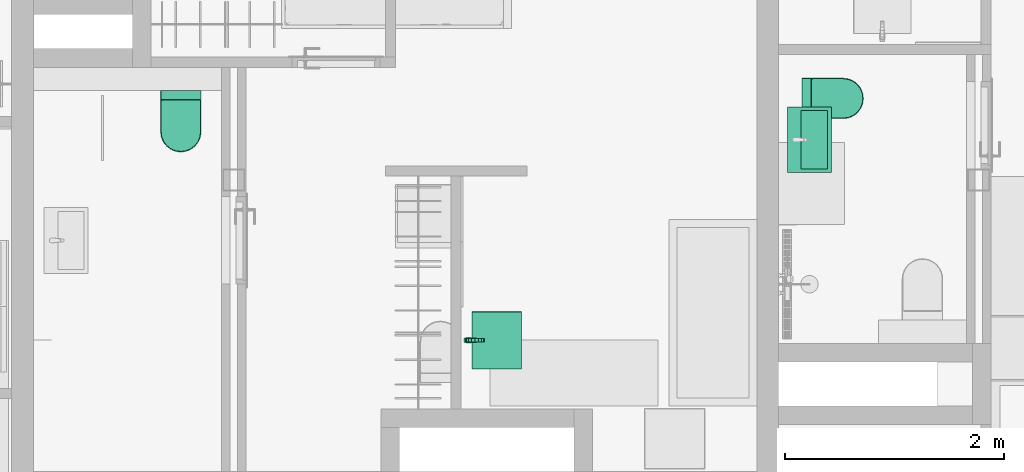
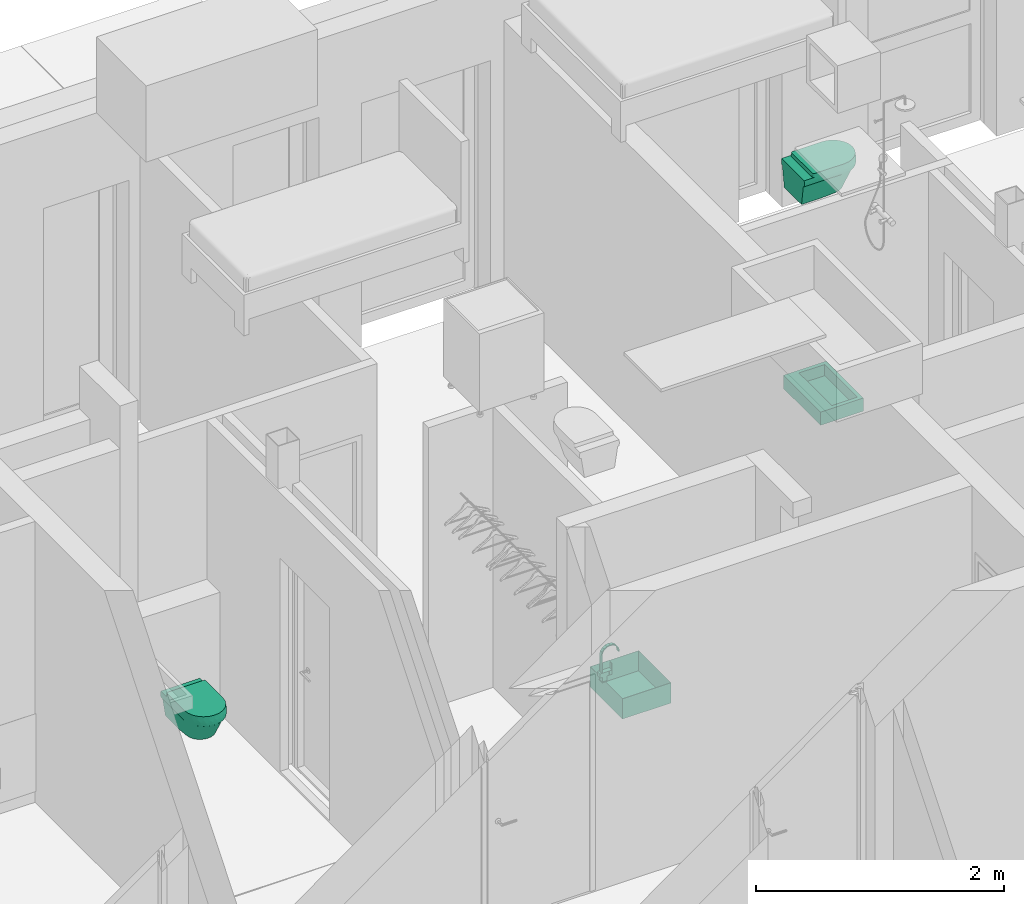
# One storey, part 20 of 68: 5 flow terminals.
"""IFC2X3 building model written with IfcOpenShell, lengths in millimetres."""

from ifc_helpers import new_model, entity, si_unit, converted_unit, direction, frame, origin, place, context, subcontext, project, spatial, faceted_brep, source, transform, mapped, material, type_object, type_shapes, element, save


model = new_model("IFC2X3")

# Units and contexts
model_context = context("Model", 3, precision=0.01, world=origin(), true_north=direction((6.123233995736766e-17, 1.0)))
plan_context = context("Plan", 3, precision=0.01, world=origin(), true_north=direction((6.123233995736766e-17, 1.0)))
body_context = subcontext(model_context, "Body", "Model", "MODEL_VIEW")
ifc_project = project(units=[si_unit("LENGTHUNIT", "METRE", prefix="MILLI"), converted_unit("PLANEANGLEUNIT", "DEGREE", entity("IfcPlaneAngleMeasure", 0.017453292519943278), si_unit("PLANEANGLEUNIT", "RADIAN"), dimensions=[0, 0, 0, 0, 0, 0, 0]), si_unit("AREAUNIT", "SQUARE_METRE")], contexts=[model_context, plan_context])

# Site, building, storey, space
site_placement = place(None, origin())
site = spatial("IfcSite", under=ifc_project, at=site_placement, Name="Default", CompositionType="ELEMENT")
building_placement = place(site_placement, origin())
building = spatial("IfcBuilding", under=site, at=building_placement, CompositionType="ELEMENT")
storey_placement = place(building_placement, frame((0.0, 0.0, 6295.0)))
storey = spatial("IfcBuildingStorey", under=building, at=storey_placement, Name="3K", CompositionType="ELEMENT", Elevation=6294.999999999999)
space_1_placement = place(storey_placement, origin())
space_1 = spatial("IfcSpace", under=storey, at=space_1_placement, Name="3-6.4", CompositionType="ELEMENT", InteriorOrExteriorSpace="INTERNAL")

# Flow terminal
ifc_material = material(Name="<Unnamed>")
distribution_element_type_1 = type_object("IfcDistributionElementType", Name="HR_Plumbing-fixtures_Toilet_Generic_v3:Default", material=ifc_material)
shared_shape_1 = source(origin(), body_context, "Body", "Brep", [
    faceted_brep([(185.0, 375.0, -3940.0), (185.0, 100.0, -3940.0), (184.31851652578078, 94.82361909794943, -3940.0), (182.32050807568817, 90.0, -3940.0), (179.14213562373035, 85.85786437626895, -3940.0), (175.0, 82.67949192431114, -3940.0), (170.17638090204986, 80.68148347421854, -3940.0), (165.0, 80.0, -3940.0), (-165.0, 80.0, -3940.0), (-170.17638090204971, 80.68148347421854, -3940.0), (-175.0, 82.67949192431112, -3940.0), (-179.14213562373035, 85.85786437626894, -3940.0), (-182.32050807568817, 90.0, -3940.0), (-184.31851652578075, 94.82361909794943, -3940.0), (-185.0, 100.0, -3940.0), (-185.0, 375.0, -3940.0), (-178.6962778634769, 422.8815233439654, -3940.0), (-160.21469970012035, 467.49999999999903, -3940.0), (-130.81475451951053, 505.81475451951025, -3940.0), (-92.4999999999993, 535.21469970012, -3940.0), (-47.8815233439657, 553.6962778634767, -3940.0), (0.0, 560.0, -3940.0), (47.88152334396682, 553.6962778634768, -3940.0), (92.50000000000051, 535.2146997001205, -3940.0), (130.81475451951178, 505.8147545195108, -3940.0), (160.2146997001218, 467.4999999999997, -3940.0), (178.69627786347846, 422.8815233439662, -3940.0), (165.0, 85.0, -3905.0), (168.88228567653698, 85.51111260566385, -3905.0), (172.4999999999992, 87.00961894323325, -3905.0), (175.60660171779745, 89.39339828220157, -3905.0), (177.99038105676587, 92.49999999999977, -3905.0), (179.48888739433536, 96.11771432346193, -3905.0), (180.0, 100.0, -3905.0), (180.0, 375.0, -3905.0), (173.86664873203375, 421.5874281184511, -3905.0), (155.88457268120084, 465.0, -3905.0), (127.27922061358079, 502.27922061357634, -3905.0), (90.0, 530.884572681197, -3905.0), (46.58742811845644, 548.8666487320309, -3905.0), (0.0, 555.0, -3905.0), (-46.58742811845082, 548.8666487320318, -3905.0), (-90.0, 530.8845726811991, -3905.0), (-127.27922061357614, 502.2792206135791, -3905.0), (-155.88457268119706, 465.0, -3905.0), (-173.8666487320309, 421.58742811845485, -3905.0), (-180.0, 375.0, -3905.0), (-180.0, 100.0, -3905.0), (-179.4888873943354, 96.11771432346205, -3905.0), (-177.99038105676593, 92.49999999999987, -3905.0), (-175.6066017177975, 89.39339828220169, -3905.0), (-172.49999999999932, 87.00961894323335, -3905.0), (-168.88228567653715, 85.51111260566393, -3905.0), (-165.0, 85.0, -3905.0)], [[[0, 1, 2, 3, 4, 5, 6, 7, 8, 9, 10, 11, 12, 13, 14, 15, 16, 17, 18, 19, 20, 21, 22, 23, 24, 25, 26]], [[27, 28, 29, 30, 31, 32, 33, 34, 35, 36, 37, 38, 39, 40, 41, 42, 43, 44, 45, 46, 47, 48, 49, 50, 51, 52, 53]], [[13, 48, 47, 14]], [[49, 12, 11, 50]], [[48, 13, 12, 49]], [[52, 51, 10, 9]], [[53, 52, 9, 8]], [[10, 51, 50, 11]], [[7, 27, 53, 8]], [[6, 28, 27, 7]], [[29, 5, 4, 30]], [[28, 6, 5, 29]], [[32, 31, 3, 2]], [[33, 32, 2, 1]], [[3, 31, 30, 4]], [[0, 34, 33, 1]], [[34, 0, 26, 35]], [[35, 26, 25, 36]], [[38, 37, 24, 23]], [[24, 37, 36, 25]], [[39, 38, 23, 22]], [[39, 22, 21, 40]], [[20, 41, 40, 21]], [[45, 44, 17, 16]], [[43, 18, 17, 44]], [[45, 16, 15, 46]], [[19, 42, 41, 20]], [[19, 18, 43, 42]], [[47, 46, 15, 14]]]),
    faceted_brep([(158.04963619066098, 466.24999999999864, -4000.0), (176.28146329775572, 422.2344757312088, -4000.0), (182.5000000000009, 375.0, -4000.0), (182.5000000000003, 0.0, -4000.0), (-182.49999999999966, 0.0, -4000.0), (-182.49999999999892, 375.0, -4000.0), (-176.2814632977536, 422.23447573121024, -4000.0), (-158.04963619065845, 466.25, -4000.0), (-129.04698756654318, 504.0469875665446, -4000.0), (-91.2499999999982, 533.0496361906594, -4000.0), (-47.23447573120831, 551.281463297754, -4000.0), (0.0, 557.4999999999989, -4000.0), (47.23447573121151, 551.2814632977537, -4000.0), (91.25000000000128, 533.0496361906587, -4000.0), (129.04698756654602, 504.0469875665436, -4000.0), (-176.28146329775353, 422.23447573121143, -3940.0), (-182.49999999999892, 375.0, -3940.0), (-182.49999999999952, 0.0, -3940.0), (182.50000000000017, 0.0, -3940.0), (182.50000000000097, 375.0, -3940.0), (176.2814632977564, 422.23447573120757, -3940.0), (158.04963619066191, 466.24999999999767, -3940.0), (129.04698756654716, 504.04698756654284, -3940.0), (91.25000000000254, 533.0496361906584, -3940.0), (47.23447573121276, 551.2814632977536, -3940.0), (0.0, 557.4999999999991, -3940.0), (-47.23447573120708, 551.2814632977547, -3940.0), (-91.24999999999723, 533.0496361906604, -3940.0), (-129.04698756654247, 504.0469875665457, -3940.0), (-158.0496361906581, 466.25000000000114, -3940.0), (184.3739186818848, 0.0, -3985.051993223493), (185.0, 0.0, -3970.0), (184.37391868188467, 0.0, -3954.9480067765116), (-184.37391868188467, 0.0, -3954.9480067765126), (-185.0, 0.0, -3970.0), (-184.37391868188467, 0.0, -3985.051993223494), (185.0, 375.0, -3970.0), (184.37391868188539, 375.0, -3954.9480067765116), (184.37391868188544, 375.0, -3985.051993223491), (179.22193525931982, 420.2391964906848, -3962.467496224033), (146.12425609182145, 487.1250848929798, -3987.162723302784), (112.36452390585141, 521.4362980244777, -3982.347722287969), (-24.092382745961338, 557.9998161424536, -3957.652277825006), (-70.79643453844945, 545.9177137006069, -3969.999999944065), (165.88140661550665, 456.6493815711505, -3963.605381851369), (170.61476036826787, 445.67094705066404, -3980.89777177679), (146.7703673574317, 487.6208651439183, -3969.999999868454), (112.4934291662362, 521.6042920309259, -3961.29138681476), (70.79643457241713, 545.9177136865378, -3969.9999999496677), (-170.6147602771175, 445.67094700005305, -3980.8977734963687), (-146.12425609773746, 487.12508488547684, -3987.1627233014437), (70.4847752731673, 545.1653000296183, -3987.16272333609), (24.092382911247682, 557.9998161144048, -3982.3477222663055), (-146.77036734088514, 487.62086516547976, -3969.999999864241), (-165.88140640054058, 456.6493822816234, -3963.605385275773), (24.120021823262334, 558.2097557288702, -3961.2913867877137), (-24.120022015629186, 558.20975569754, -3978.7086133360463), (180.8695297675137, 411.23491834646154, -3983.9362692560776), (-112.36452329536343, 521.4362985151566, -3957.652277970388), (-112.4934298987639, 521.6042914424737, -3978.708613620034), (-70.48477528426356, 545.1653000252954, -3987.1627233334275), (-184.3739188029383, 375.0, -3954.948008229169), (-179.2219343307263, 420.239200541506, -3962.4674984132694), (-185.0, 375.0, -3970.0000029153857), (-184.3739185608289, 375.0, -3985.0519946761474), (-181.40133300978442, 410.0856400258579, -3979.2616608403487)], [[[0, 1, 2, 3, 4, 5, 6, 7, 8, 9, 10, 11, 12, 13, 14]], [[15, 16, 17, 18, 19, 20, 21, 22, 23, 24, 25, 26, 27, 28, 29]], [[4, 3, 30, 31, 32, 18, 17, 33, 34, 35]], [[32, 31, 36, 37]], [[32, 37, 19, 18]], [[30, 3, 2, 38]], [[30, 38, 36, 31]], [[37, 39, 20]], [[40, 14, 41]], [[20, 19, 37]], [[26, 42, 43]], [[44, 45, 46]], [[47, 41, 48]], [[48, 24, 23]], [[7, 49, 50]], [[47, 22, 46]], [[51, 12, 52]], [[21, 46, 22]], [[53, 49, 54]], [[55, 52, 56]], [[48, 52, 55]], [[36, 57, 39]], [[28, 58, 53]], [[11, 10, 56]], [[57, 38, 2]], [[37, 36, 39]], [[59, 58, 43]], [[7, 6, 49]], [[14, 13, 41]], [[12, 51, 13]], [[45, 57, 1]], [[14, 40, 0]], [[45, 1, 0]], [[47, 46, 41]], [[39, 57, 45]], [[24, 48, 55]], [[56, 42, 55]], [[26, 43, 27]], [[39, 45, 44]], [[58, 28, 27]], [[9, 59, 60]], [[27, 43, 58]], [[28, 53, 29]], [[61, 16, 15]], [[11, 56, 52]], [[61, 62, 63]], [[47, 48, 23]], [[41, 51, 48]], [[15, 54, 62]], [[42, 25, 55]], [[62, 61, 15]], [[64, 63, 65]], [[56, 60, 43]], [[55, 25, 24]], [[50, 53, 59]], [[60, 10, 9]], [[47, 23, 22]], [[62, 49, 65]], [[7, 50, 8]], [[49, 62, 54]], [[64, 6, 5]], [[42, 26, 25]], [[58, 59, 53]], [[49, 6, 65]], [[44, 21, 20]], [[11, 52, 12]], [[42, 56, 43]], [[46, 45, 40]], [[59, 9, 8]], [[39, 44, 20]], [[44, 46, 21]], [[54, 29, 53]], [[29, 54, 15]], [[13, 51, 41]], [[48, 51, 52]], [[0, 40, 45]], [[46, 40, 41]], [[10, 60, 56]], [[43, 60, 59]], [[8, 50, 59]], [[53, 50, 49]], [[1, 57, 2]], [[36, 38, 57]], [[62, 65, 63]], [[64, 65, 6]], [[16, 61, 33]], [[16, 33, 17]], [[33, 61, 34]], [[61, 63, 34]], [[64, 5, 4]], [[64, 35, 63]], [[35, 64, 4]], [[63, 35, 34]]]),
    faceted_brep([(85.0, 522.224318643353, -4000.0), (43.99923766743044, 539.2073904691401, -4000.0), (0.0, 545.0, -4000.0), (-43.99923766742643, 539.2073904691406, -4000.0), (-85.0, 522.2243186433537, -4000.0), (-120.20815280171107, 495.2081528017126, -4000.0), (-147.22431864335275, 460.0, -4000.0), (-164.20739046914, 418.9992376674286, -4000.0), (-170.0, 375.0, -4000.0), (-170.0, 0.0, -4000.0), (170.0, 0.0, -4000.0), (170.0, 375.0, -4000.0), (164.2073904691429, 418.99923766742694, -4000.0), (147.224318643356, 460.0, -4000.0), (120.20815280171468, 495.20815280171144, -4000.0), (140.0, 0.0, -4200.0), (-140.0, 0.0, -4200.0), (-140.0, 150.0, -4200.0), (-138.62980634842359, 195.25787346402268, -4200.0), (-137.25961308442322, 240.51573412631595, -4200.0), (-133.15405183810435, 285.6078202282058, -4200.0), (-129.04849039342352, 330.69990850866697, -4200.0), (-121.54313718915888, 361.12229181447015, -4200.0), (-106.97640292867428, 388.86507440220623, -4200.0), (-86.1945818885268, 412.3164634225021, -4200.0), (-60.40505081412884, 430.11398627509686, -4200.0), (-31.106123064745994, 441.2236471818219, -4200.0), (0.0, 445.0, -4200.0), (31.106123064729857, 441.2236471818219, -4200.0), (60.40505081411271, 430.1139862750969, -4200.0), (86.19458188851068, 412.3164634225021, -4200.0), (106.97640292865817, 388.86507440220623, -4200.0), (121.54313718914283, 361.12229181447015, -4200.0), (129.04849039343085, 330.69990850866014, -4200.0), (133.15405231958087, 285.60781494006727, -4200.0), (137.25961308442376, 240.51573412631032, -4200.0), (138.629806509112, 195.25786815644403, -4200.0), (140.0, 150.0, -4200.0), (150.60660238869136, 229.54951791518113, -4129.289317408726), (160.30330119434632, 302.2747589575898, -4064.6446587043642), (155.52145288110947, 359.3375502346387, -4070.710688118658), (143.52703751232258, 346.36235827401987, -4129.289311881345), (155.38792293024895, 359.1931016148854, -4071.362825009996), (136.07910358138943, 407.7451780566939, -4100.000018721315), (144.4628484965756, 378.65444268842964, -4105.413468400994), (88.6637225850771, 465.93257853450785, -4100.000001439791), (116.08235687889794, 439.8543237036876, -4100.000003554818), (-146.76963007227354, 381.58655237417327, -4094.5865394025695), (-136.0791098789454, 407.7451788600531, -4100.000000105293), (-143.66056550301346, 346.5068047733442, -4128.637184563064), (-156.76351819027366, 360.6811785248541, -4064.644658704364), (55.573859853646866, 484.30716171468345, -4100.000000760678), (18.928354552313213, 493.79904274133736, -4099.999999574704), (-55.573860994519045, 484.3071615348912, -4100.00000022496), (-18.928355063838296, 493.79904230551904, -4100.000000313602), (-143.52703638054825, 346.36235704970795, -4129.289317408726), (-88.66372427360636, 465.9325779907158, -4100.000000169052), (-116.08235986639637, 439.8543221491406, -4100.000000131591), (-159.3933967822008, 295.45047586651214, -4070.7106881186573), (-150.6066032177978, 229.54952413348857, -4129.2893118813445)], [[[0, 1, 2, 3, 4, 5, 6, 7, 8, 9, 10, 11, 12, 13, 14]], [[15, 16, 17, 18, 19, 20, 21, 22, 23, 24, 25, 26, 27, 28, 29, 30, 31, 32, 33, 34, 35, 36, 37]], [[10, 15, 37, 38, 39, 11]], [[36, 35, 39, 38, 37]], [[39, 40, 11]], [[35, 40, 39]], [[34, 33, 41, 42, 40, 35]], [[13, 12, 43]], [[32, 44, 33]], [[32, 31, 43]], [[44, 12, 42]], [[45, 30, 29]], [[45, 46, 30]], [[22, 47, 48]], [[30, 46, 31]], [[47, 49, 50, 8]], [[28, 51, 29]], [[46, 43, 31]], [[43, 44, 32]], [[12, 11, 40, 42]], [[51, 45, 29]], [[14, 45, 0]], [[13, 43, 46]], [[28, 27, 52]], [[14, 46, 45]], [[45, 51, 0]], [[0, 51, 1]], [[1, 51, 52]], [[52, 51, 28]], [[52, 2, 1]], [[13, 46, 14]], [[53, 26, 25]], [[2, 54, 3]], [[22, 21, 55, 49]], [[24, 56, 25]], [[48, 23, 22]], [[5, 57, 6]], [[48, 57, 23]], [[24, 23, 57]], [[47, 7, 48]], [[8, 7, 47]], [[26, 54, 27]], [[3, 54, 53]], [[56, 53, 25]], [[2, 52, 54]], [[57, 56, 24]], [[4, 53, 56]], [[22, 49, 47]], [[5, 56, 57]], [[57, 48, 6]], [[4, 56, 5]], [[53, 54, 26]], [[3, 53, 4]], [[6, 48, 7]], [[12, 44, 43]], [[44, 42, 41, 33]], [[54, 52, 27]], [[20, 19, 50, 49, 55, 21]], [[50, 58, 8]], [[19, 58, 50]], [[18, 17, 59, 58, 19]], [[9, 8, 58, 59, 17, 16]], [[9, 16, 15, 10]]]),
])
type_shapes(distribution_element_type_1, [shared_shape_1])
flow_terminal_1_placement = place(space_1_placement, frame((4692.0, 11517.0, 4340.0), z_axis=(0.0, 0.0, 1.0), x_axis=(-1.0, 0.0, 0.0)))
element("IfcFlowTerminal", 1, at=flow_terminal_1_placement, inside=space_1, type_object=distribution_element_type_1, material=ifc_material, Name="HR_Plumbing-fixtures_Toilet_Generic_v3:Default", ObjectType="HR_Plumbing-fixtures_Toilet_Generic_v3:Default", context=body_context, shape_type="MappedRepresentation", body=[
    mapped(shared_shape_1, transform((0.0, 0.0, 0.0), scale=1.0)),
])

# Space
space_2_placement = place(storey_placement, origin())
space_2 = spatial("IfcSpace", under=storey, at=space_2_placement, Name="3-7.4", CompositionType="ELEMENT", InteriorOrExteriorSpace="INTERNAL")

# Flow terminal
flow_terminal_2_placement = place(space_2_placement, frame((10363.0, 11446.0, 7475.000076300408), z_axis=(0.0, 0.0, 1.0), x_axis=(0.0, -1.0, 0.0)))
element("IfcFlowTerminal", 2, at=flow_terminal_2_placement, inside=space_2, type_object=distribution_element_type_1, material=ifc_material, Name="HR_Plumbing-fixtures_Toilet_Generic_v3:Default", ObjectType="HR_Plumbing-fixtures_Toilet_Generic_v3:Default", context=body_context, shape_type="MappedRepresentation", body=[
    mapped(shared_shape_1, transform((0.0, 0.0, 0.0), scale=1.0)),
])

# Space
space_3_placement = place(storey_placement, origin())
space_3 = spatial("IfcSpace", under=storey, at=space_3_placement, Name="3-6.2", CompositionType="ELEMENT", InteriorOrExteriorSpace="INTERNAL")

# Flow terminals
distribution_element_type_2 = type_object("IfcDistributionElementType", Name="HR_Plumbing-fixtures_Sink_Generic_Kitchen_v1:Default", material=ifc_material)
shared_shape_2 = source(origin(), body_context, "Body", "Brep", [
    faceted_brep([(260.0, -50.0, -3825.0), (260.0, -500.0, -3825.0), (-260.0, -500.0, -3825.0), (-260.0, -50.0, -3825.0), (262.0, -48.0, -3825.0), (-262.0, -48.0, -3825.0), (-262.0, -502.0, -3825.0), (262.0, -502.0, -3825.0), (262.0, -48.0, -4025.0), (262.0, -502.0, -4025.0), (-262.0, -502.0, -4025.0), (-262.0, -48.0, -4025.0), (260.0, -50.0, -4023.0), (260.0, -500.0, -4023.0), (-260.0, -500.0, -4023.0), (-260.0, -50.0, -4023.0)], [[[0, 1, 2, 3], [4, 5, 6, 7]], [[8, 9, 10, 11]], [[1, 0, 12, 13]], [[2, 1, 13, 14]], [[3, 2, 14, 15]], [[0, 3, 15, 12]], [[5, 4, 8, 11]], [[6, 5, 11, 10]], [[7, 6, 10, 9]], [[4, 7, 9, 8]], [[13, 12, 15, 14]]], outer=[[False, True], [True], [True], [True], [True], [True], [True], [True], [True], [True], [True]]),
])
type_shapes(distribution_element_type_2, [shared_shape_2])
flow_terminal_3_placement = place(space_3_placement, frame((7850.0, 9238.0, 4695.0), z_axis=(0.0, 0.0, 1.0), x_axis=(0.0, -1.0, 0.0)))
element("IfcFlowTerminal", 3, at=flow_terminal_3_placement, inside=space_3, type_object=distribution_element_type_2, material=ifc_material, Name="HR_Plumbing-fixtures_Sink_Generic_Kitchen_v1:Default", ObjectType="HR_Plumbing-fixtures_Sink_Generic_Kitchen_v1:Default", context=body_context, shape_type="MappedRepresentation", body=[
    mapped(shared_shape_2, transform((0.0, 0.0, 0.0), scale=1.0)),
])
distribution_element_type_3 = type_object("IfcDistributionElementType", Name="HR_Plumbing-fixtures_Faucet_Generic_v1:Default", material=ifc_material)
shared_shape_3 = source(origin(), body_context, "Body", "Brep", [
    faceted_brep([(-21.0, 45.0, 93.0), (21.0, 45.0, 93.0), (21.0, 71.0, 93.0), (11.500000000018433, 71.0, 93.0), (11.50000000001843, 68.0, 93.0), (-11.49999999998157, 68.0, 93.0), (-11.499999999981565, 71.0, 93.0), (-21.0, 71.0, 93.0), (-21.0, 45.0, 52.0), (-21.0, 71.0, 52.0), (-11.499999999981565, 71.0, 52.0), (-11.49999999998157, 68.0, 52.0), (11.50000000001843, 68.0, 52.0), (11.500000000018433, 71.0, 52.0), (21.0, 71.0, 52.0), (21.0, 45.0, 52.0), (-11.499999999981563, 74.0, 155.0), (-11.499999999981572, 68.0, 155.0), (11.500000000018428, 68.0, 155.0), (11.500000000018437, 74.0, 155.0), (-11.499999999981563, 74.0, 47.0), (11.500000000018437, 74.0, 47.0), (11.500000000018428, 68.0, 47.0), (-11.499999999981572, 68.0, 47.0)], [[[0, 1, 2, 3, 4, 5, 6, 7]], [[8, 9, 10, 11, 12, 13, 14, 15]], [[1, 0, 8, 15]], [[2, 1, 15, 14]], [[2, 14, 13, 3]], [[0, 7, 9, 8]], [[16, 17, 18, 19]], [[20, 21, 22, 23]], [[17, 16, 20, 23, 11, 10, 6, 5]], [[18, 17, 5, 4]], [[19, 18, 4, 3, 13, 12, 22, 21]], [[16, 19, 21, 20]], [[23, 22, 12, 11]], [[9, 7, 6, 10]]]),
    faceted_brep([(15.0, -28.2999999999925, 93.0), (-15.0, -28.299999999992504, 93.0), (-15.0, -18.299999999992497, 93.0), (15.0, -18.299999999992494, 93.0), (15.0, -28.299999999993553, 262.91444034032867), (-15.0, -28.29999999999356, 262.9144403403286), (-15.0, -18.29999999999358, 262.49427421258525), (15.0, -18.299999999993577, 262.49427421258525), (15.0, -24.100059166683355, 278.21407775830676), (15.0, -19.900118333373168, 293.51371517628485), (-15.0, -19.900118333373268, 293.5137151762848), (-15.0, -24.100059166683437, 278.2140777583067), (-15.0, -0.9291565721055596, 318.9494428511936), (-15.0, -10.414637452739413, 306.2315790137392), (15.0, -10.414637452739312, 306.23157901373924), (15.0, -0.9291565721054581, 318.9494428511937), (15.0, 142.33160759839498, 262.51576689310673), (-15.0, 142.33160759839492, 262.51576689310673), (-15.0, 138.20320612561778, 277.83486312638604), (-15.0, 134.07480465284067, 293.15395935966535), (15.0, 134.07480465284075, 293.15395935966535), (15.0, 138.20320612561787, 277.83486312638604), (-15.0, 26.005040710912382, 335.7250992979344), (-15.0, 12.537942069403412, 327.337271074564), (15.0, 12.537942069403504, 327.337271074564), (15.0, 26.005040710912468, 335.7250992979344), (-15.0, 57.19996222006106, 341.5346177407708), (-15.0, 41.60250146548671, 338.6298585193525), (15.0, 41.60250146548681, 338.62985851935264), (15.0, 57.19996222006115, 341.5346177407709), (-15.0, 88.36739590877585, 335.5793923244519), (-15.0, 72.78367906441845, 338.55700503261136), (15.0, 72.78367906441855, 338.55700503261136), (15.0, 88.36739590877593, 335.5793923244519), (-15.0, 124.64885649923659, 305.9160089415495), (-15.0, 115.22290834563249, 318.67805852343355), (15.0, 115.22290834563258, 318.67805852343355), (15.0, 124.64885649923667, 305.9160089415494), (-15.0, 101.79515212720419, 327.1287254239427), (15.0, 101.79515212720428, 327.1287254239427), (-15.0, 142.3316075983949, 249.0), (-15.0, 132.33160759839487, 249.0), (-15.0, 132.3316075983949, 262.11973222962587), (-15.0, 128.64003790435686, 275.58767371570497), (-15.0, 124.94846821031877, 289.05561520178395), (-15.0, 116.61798076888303, 300.2634746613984), (-15.0, 108.28749332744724, 311.4713341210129), (-15.0, 96.45555148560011, 318.88876541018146), (-15.0, 84.623609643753, 326.30619669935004), (-15.0, 70.90577314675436, 328.9204071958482), (-15.0, 57.187936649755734, 331.53461769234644), (-15.0, 43.457269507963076, 328.98865726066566), (-15.0, 29.726602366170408, 326.4426968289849), (-15.0, 17.85792051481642, 319.08419658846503), (-15.0, 5.989238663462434, 311.72569634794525), (-15.0, -2.3968815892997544, 300.55940234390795), (-15.0, -10.783001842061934, 289.3931083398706), (-15.0, -14.541500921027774, 275.9436912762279), (15.0, -10.783001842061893, 289.3931083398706), (15.0, -14.541500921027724, 275.9436912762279), (15.0, 5.989238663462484, 311.7256963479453), (15.0, -2.396881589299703, 300.55940234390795), (15.0, 116.61798076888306, 300.2634746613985), (15.0, 108.28749332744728, 311.47133412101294), (15.0, 124.94846821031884, 289.05561520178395), (15.0, 29.726602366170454, 326.4426968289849), (15.0, 17.857920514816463, 319.08419658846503), (15.0, 57.187936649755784, 331.53461769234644), (15.0, 43.45726950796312, 328.98865726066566), (15.0, 84.62360964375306, 326.30619669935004), (15.0, 70.90577314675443, 328.9204071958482), (15.0, 127.94606568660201, 278.11949025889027), (15.0, 132.33160759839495, 262.11973222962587), (15.0, 96.45555148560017, 318.88876541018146), (15.0, 132.33160759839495, 249.0), (15.0, 142.33160759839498, 249.0)], [[[0, 1, 2, 3]], [[1, 0, 4, 5]], [[3, 2, 6, 7]], [[4, 8, 9, 10, 11, 5]], [[12, 13, 10, 9, 14, 15]], [[16, 17, 18, 19, 20, 21]], [[22, 23, 12, 15, 24, 25]], [[26, 27, 22, 25, 28, 29]], [[30, 31, 26, 29, 32, 33]], [[34, 35, 36, 37, 20, 19]], [[35, 38, 30, 33, 39, 36]], [[17, 40, 41, 42, 43, 44, 45, 46, 47, 48, 49, 50, 51, 52, 53, 54, 55, 56, 57, 6, 2, 1, 5, 11, 10, 13, 12, 23, 22, 27, 26, 31, 30, 38, 35, 34, 19, 18]], [[6, 57, 56, 58, 59, 7]], [[60, 61, 58, 56, 55, 54]], [[62, 63, 46, 45, 44, 64]], [[65, 66, 60, 54, 53, 52]], [[65, 52, 51, 50, 67, 68]], [[69, 70, 67, 50, 49, 48]], [[71, 64, 44, 43, 42, 72]], [[47, 46, 63, 73, 69, 48]], [[72, 74, 75, 16, 21, 20, 37, 36, 39, 33, 32, 29, 28, 25, 24, 15, 14, 9, 8, 4, 0, 3, 7, 59, 58, 61, 60, 66, 65, 68, 67, 70, 69, 73, 63, 62, 64, 71]], [[41, 40, 75, 74]], [[17, 16, 75, 40]], [[72, 42, 41, 74]]]),
    faceted_brep([(-21.0, -43.0, 93.0), (21.0, -43.0, 93.0), (21.0, 43.0, 93.0), (-21.0, 43.0, 93.0), (-21.0, -43.0, 52.0), (-21.0, 43.0, 52.0), (21.0, 43.0, 52.0), (21.0, -43.0, 52.0)], [[[0, 1, 2, 3]], [[4, 5, 6, 7]], [[1, 0, 4, 7]], [[2, 1, 7, 6]], [[3, 2, 6, 5]], [[0, 3, 5, 4]]]),
    faceted_brep([(21.0, -21.0, 52.0), (21.0, 21.0, 52.0), (-21.0, 21.0, 52.0), (-21.0, -21.0, 52.0), (21.0, -21.0, 7.0), (-21.0, -21.0, 7.0), (-21.0, 21.0, 7.0), (21.0, 21.0, 7.0)], [[[0, 1, 2, 3]], [[4, 5, 6, 7]], [[1, 0, 4, 7]], [[2, 1, 7, 6]], [[3, 2, 6, 5]], [[0, 3, 5, 4]]]),
    faceted_brep([(-25.0, 25.0, 7.0), (-25.0, -25.0, 7.0), (25.0, -25.0, 7.0), (25.0, 25.0, 7.0), (-25.0, 25.0, 0.0), (25.0, 25.0, 0.0), (25.0, -25.0, 0.0), (-25.0, -25.0, 0.0)], [[[0, 1, 2, 3]], [[4, 5, 6, 7]], [[1, 0, 4, 7]], [[2, 1, 7, 6]], [[3, 2, 6, 5]], [[0, 3, 5, 4]]]),
])
type_shapes(distribution_element_type_3, [shared_shape_3])
flow_terminal_4_placement = place(space_3_placement, frame((7320.0, 9238.0, 900.0), z_axis=(0.0, 0.0, 1.0), x_axis=(0.0, -1.0, 0.0)))
element("IfcFlowTerminal", 4, at=flow_terminal_4_placement, inside=space_3, type_object=distribution_element_type_3, material=ifc_material, Name="HR_Plumbing-fixtures_Faucet_Generic_v1:Default", ObjectType="HR_Plumbing-fixtures_Faucet_Generic_v1:Default", context=body_context, shape_type="MappedRepresentation", body=[
    mapped(shared_shape_3, transform((0.0, 0.0, 0.0), scale=1.0)),
])
distribution_element_type_4 = type_object("IfcDistributionElementType", Name="HR_Plumbing-fixtures_Sink_Generic_Bathroom_v1:600 x 400 mm", material=ifc_material)
shared_shape_4 = source(origin(), body_context, "Body", "Brep", [
    faceted_brep([(300.0, 0.0, -3325.0), (-300.0, 0.0, -3325.0), (-300.0, -400.0, -3325.0), (300.0, -400.0, -3325.0), (-265.0, -125.0, -3325.0), (265.0, -125.0, -3325.0), (265.0, -365.0, -3325.0), (-265.0, -365.0, -3325.0), (300.0, 0.0, -3455.0), (300.0, -400.0, -3455.0), (-300.0, -400.0, -3455.0), (-300.0, 0.0, -3455.0), (265.0, -125.0, -3435.0), (-265.0, -125.0, -3435.0), (-265.0, -365.0, -3435.0), (265.0, -365.0, -3435.0)], [[[0, 1, 2, 3], [4, 5, 6, 7]], [[8, 9, 10, 11]], [[1, 0, 8, 11]], [[2, 1, 11, 10]], [[3, 2, 10, 9]], [[0, 3, 9, 8]], [[12, 13, 14, 15]], [[13, 12, 5, 4]], [[14, 13, 4, 7]], [[15, 14, 7, 6]], [[12, 15, 6, 5]]]),
])
type_shapes(distribution_element_type_4, [shared_shape_4])
flow_terminal_5_placement = place(space_2_placement, frame((10230.0, 11069.0, 4925.0), z_axis=(0.0, 0.0, 1.0), x_axis=(0.0, 1.0, 0.0)))
element("IfcFlowTerminal", 5, at=flow_terminal_5_placement, inside=space_2, type_object=distribution_element_type_4, material=ifc_material, Name="HR_Plumbing-fixtures_Sink_Generic_Bathroom_v1:600 x 400 mm", ObjectType="HR_Plumbing-fixtures_Sink_Generic_Bathroom_v1:600 x 400 mm", context=body_context, shape_type="MappedRepresentation", body=[
    mapped(shared_shape_4, transform((0.0, 0.0, 0.0), scale=1.0)),
])

save(model, "model.ifc")
